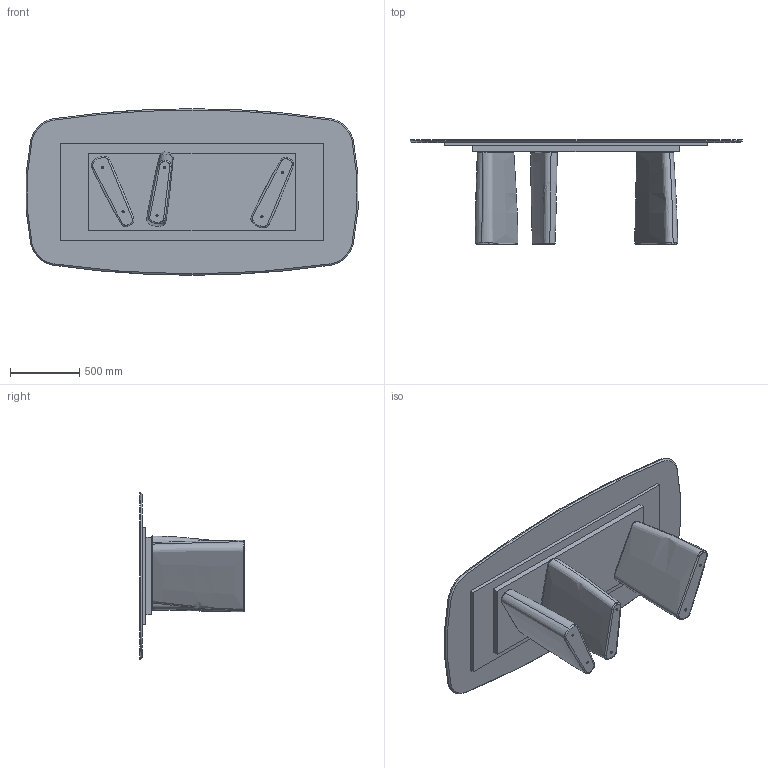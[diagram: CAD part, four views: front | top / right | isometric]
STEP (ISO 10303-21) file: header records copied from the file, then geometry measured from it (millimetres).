
FILE_DESCRIPTION (( 'STEP AP203' ), '1' );
FILE_NAME ('marmo 240x120 sag.STEP', '2025-04-14T14:43:49', ( '' ), ( '' ), 'SwSTEP 2.0', 'SolidWorks 2022', '' );
FILE_SCHEMA (( 'CONFIG_CONTROL_DESIGN' ));
Length unit declared in the file: millimetre
Products named in the file (3): marmo 240x120 sag; CAMP_00200-01-Gamba in MDF_raggi; piano alleggerito_Marmo 240x120 sag
Assembly tree (4 placements, depth 2):
  marmo 240x120 sag
    piano alleggerito_Marmo 240x120 sag
    CAMP_00200-01-Gamba in MDF_raggi  x3
Bounding box: 2391.62 x 755 x 1200 mm (x, y, z)
Volume: 238431530.2 mm3; surface area: 12710559.6 mm2
Topology: 6 solids, 6 shells, 164 faces, 400 edges, 260 vertices
Faces by surface type: bspline 54, cylinder 45, cone 33, plane 32
Entity records: 6808 total; most frequent: CARTESIAN_POINT 4516, ORIENTED_EDGE 408, DIRECTION 400, EDGE_CURVE 204, AXIS2_PLACEMENT_3D 165, VERTEX_POINT 132, EDGE_LOOP 100, CIRCLE 92
